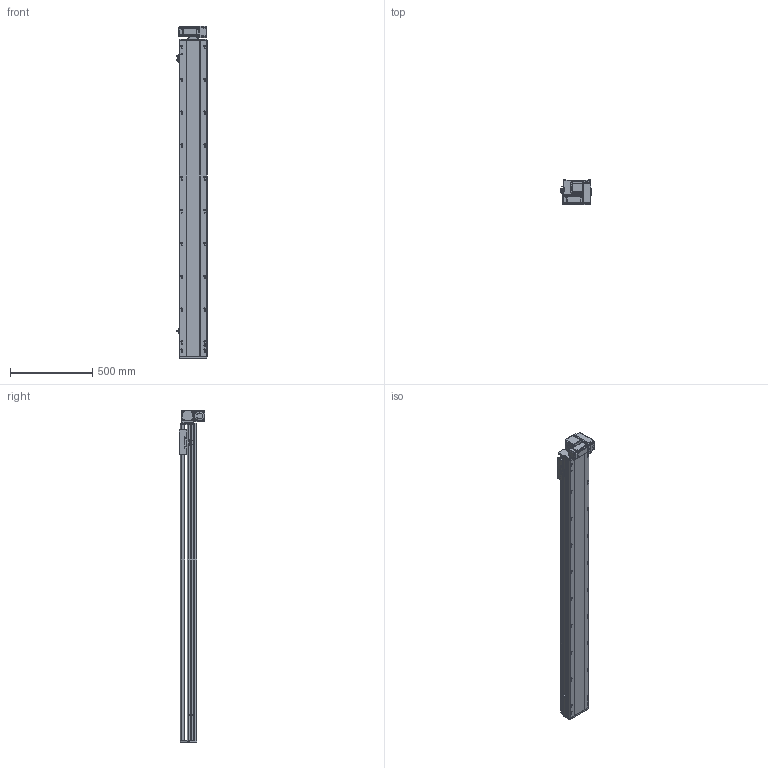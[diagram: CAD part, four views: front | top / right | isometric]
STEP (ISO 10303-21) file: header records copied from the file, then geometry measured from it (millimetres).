
FILE_DESCRIPTION (( 'STEP AP214' ), '1' );
FILE_NAME ('RTB17S-XX-1650-RM-M40-C4.STEP', '2025-12-11T08:21:34', ( '' ), ( '' ), 'SwSTEP 2.0', 'SolidWorks 2018', '' );
FILE_SCHEMA (( 'AUTOMOTIVE_DESIGN' ));
Length unit declared in the file: millimetre
Products named in the file (14): RTB14-L-018P^RTB17S-RM-々湍釱蚾饜-400W_RTB17S-XX-XX-RM-M40-C4; RTB17S-L-001耜醱啣^RTB17S-XX-XX-RM-M40-C4; RTB14-L-008-M20--萇儂啣^RTB17S-RM-々湍釱蚾饜-400W_RTB17S-XX-XX-RM-M40-C4; RTB17S-XX-1650-RM-M40-C4; 400W侜督萇儂^RTB17S-XX-XX-RM-M40-C4; RTB17S-L-014-T20--々湍釱^RTB17S-RM-々湍釱蚾饜-400W_RTB17S-XX-XX-RM-M40-C4; RTB17S-L-004佪裝蹟譫蟀諉釱^RTB17S-XX-XX-RM-M40-C4; RTB17S-L-007奻裔^RTB17S-XX-XX-RM-M40-C4; RTB14-L-017P^RTB17S-RM-々湍釱蚾饜-400W_RTB17S-XX-XX-RM-M40-C4; OMRON EE-SX672 传感器^RTB17S-XX-XX-RM-M40-C4; RTH13-BL-012覜茼え俋离^RTB17S-XX-XX-RM-M40-C4; RTB17-R-011菁釱^RTB17S-XX-XX-RM-M40-C4; RTB14-L-005P--轴承塑胶压盖^RTB17S-RM-皮带座装配-400W_RTB17S-XX-XX-RM-M40-C4; RTB17S-RM-々湍釱蚾饜-400W^RTB17S-XX-XX-RM-M40-C4
Assembly tree (16 placements, depth 3):
  RTB17S-XX-1650-RM-M40-C4
    RTB17-R-011菁釱^RTB17S-XX-XX-RM-M40-C4
    RTB17S-L-007奻裔^RTB17S-XX-XX-RM-M40-C4
    OMRON EE-SX672 传感器^RTB17S-XX-XX-RM-M40-C4  x3
    RTB17S-L-001耜醱啣^RTB17S-XX-XX-RM-M40-C4
    400W侜督萇儂^RTB17S-XX-XX-RM-M40-C4
    RTB17S-L-004佪裝蹟譫蟀諉釱^RTB17S-XX-XX-RM-M40-C4
    RTH13-BL-012覜茼え俋离^RTB17S-XX-XX-RM-M40-C4
    RTB17S-RM-々湍釱蚾饜-400W^RTB17S-XX-XX-RM-M40-C4
      RTB17S-L-014-T20--々湍釱^RTB17S-RM-々湍釱蚾饜-400W_RTB17S-XX-XX-RM-M40-C4
      RTB14-L-005P--轴承塑胶压盖^RTB17S-RM-皮带座装配-400W_RTB17S-XX-XX-RM-M40-C4
      RTB14-L-008-M20--萇儂啣^RTB17S-RM-々湍釱蚾饜-400W_RTB17S-XX-XX-RM-M40-C4
      RTB14-L-017P^RTB17S-RM-々湍釱蚾饜-400W_RTB17S-XX-XX-RM-M40-C4  x2
      RTB14-L-018P^RTB17S-RM-々湍釱蚾饜-400W_RTB17S-XX-XX-RM-M40-C4
Bounding box: 183.5 x 156.5 x 2022.5 mm (x, y, z)
Volume: 17669812 mm3; surface area: 2077902.9 mm2
Topology: 15 solids, 15 shells, 2269 faces, 6303 edges, 4113 vertices
Faces by surface type: plane 1076, cylinder 745, bspline 301, cone 139, torus 8
Entity records: 65705 total; most frequent: CARTESIAN_POINT 18508, ORIENTED_EDGE 9450, DIRECTION 8756, EDGE_CURVE 4725, VERTEX_POINT 3101, AXIS2_PLACEMENT_3D 3031, VECTOR 2694, LINE 2694
